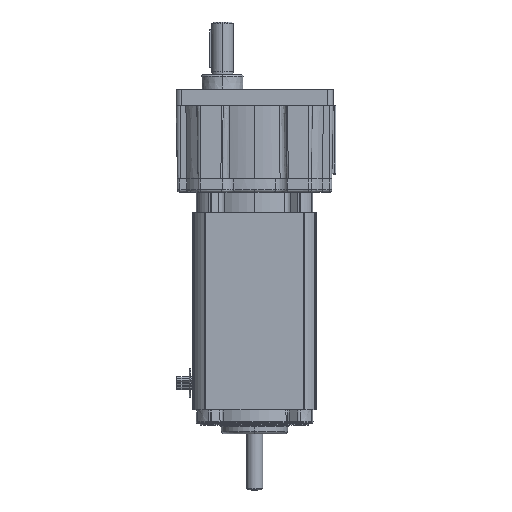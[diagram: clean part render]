
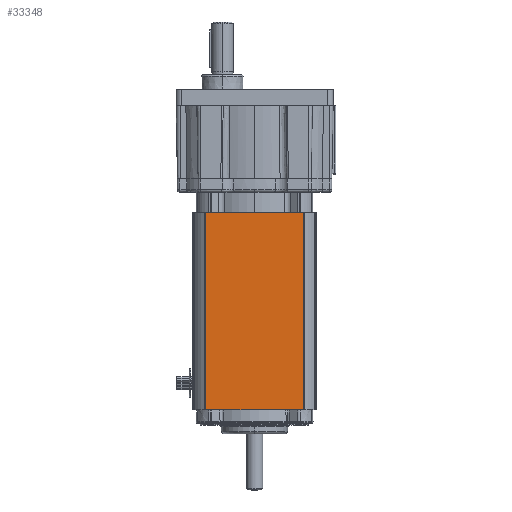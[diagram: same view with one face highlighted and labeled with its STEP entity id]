
A CAD part, left-side view. The second image highlights one B-rep face of the part: STEP entity #33348.
In plain terms, the highlighted planar face has unit normal (-1, 0, 0).
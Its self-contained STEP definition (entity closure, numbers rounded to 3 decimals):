
#1365 = DIRECTION ( 'NONE',  ( 0., 0., -1. ) ) ;
#1570 = VERTEX_POINT ( 'NONE', #10155 ) ;
#4729 = LINE ( 'NONE', #35699, #28837 ) ;
#4986 = CARTESIAN_POINT ( 'NONE',  ( -36.632, 28.835, -191.11 ) ) ;
#7263 = EDGE_CURVE ( 'NONE', #11758, #48712, #36537, .T. ) ;
#7618 = CARTESIAN_POINT ( 'NONE',  ( -36.622, -28.848, -72.847 ) ) ;
#8631 = DIRECTION ( 'NONE',  ( 0., 0., 1. ) ) ;
#10155 = CARTESIAN_POINT ( 'NONE',  ( -36.632, 28.835, -189.255 ) ) ;
#10381 = EDGE_CURVE ( 'NONE', #11758, #1570, #20993, .T. ) ;
#10576 = LINE ( 'NONE', #31484, #39392 ) ;
#11758 = VERTEX_POINT ( 'NONE', #24457 ) ;
#17979 = CARTESIAN_POINT ( 'NONE',  ( -36.622, -29.356, -72.847 ) ) ;
#17987 = ORIENTED_EDGE ( 'NONE', *, *, #7263, .F. ) ;
#18380 = EDGE_CURVE ( 'NONE', #37730, #48712, #10576, .T. ) ;
#20677 = EDGE_CURVE ( 'NONE', #37730, #1570, #4729, .T. ) ;
#20993 = LINE ( 'NONE', #4986, #23339 ) ;
#21200 = PLANE ( 'NONE',  #33473 ) ;
#23339 = VECTOR ( 'NONE', #1365, 1000. ) ;
#24457 = CARTESIAN_POINT ( 'NONE',  ( -36.632, 28.835, -72.847 ) ) ;
#24712 = DIRECTION ( 'NONE',  ( 0., 1., 0. ) ) ;
#25749 = DIRECTION ( 'NONE',  ( -1., 0., 0. ) ) ;
#27533 = ORIENTED_EDGE ( 'NONE', *, *, #18380, .T. ) ;
#27791 = EDGE_LOOP ( 'NONE', ( #42893, #33246, #27533, #17987 ) ) ;
#28837 = VECTOR ( 'NONE', #24712, 1000. ) ;
#29880 = DIRECTION ( 'NONE',  ( 0., 0., 1. ) ) ;
#31484 = CARTESIAN_POINT ( 'NONE',  ( -36.622, -28.848, -191.11 ) ) ;
#32882 = CARTESIAN_POINT ( 'NONE',  ( -36.622, -29.356, -191.11 ) ) ;
#33246 = ORIENTED_EDGE ( 'NONE', *, *, #20677, .F. ) ;
#33348 = ADVANCED_FACE ( 'NONE', ( #38530 ), #21200, .T. ) ;
#33446 = CARTESIAN_POINT ( 'NONE',  ( -36.622, -28.848, -189.255 ) ) ;
#33473 = AXIS2_PLACEMENT_3D ( 'NONE', #32882, #25749, #29880 ) ;
#35699 = CARTESIAN_POINT ( 'NONE',  ( -36.622, -28.848, -189.255 ) ) ;
#36537 = LINE ( 'NONE', #17979, #43004 ) ;
#37730 = VERTEX_POINT ( 'NONE', #33446 ) ;
#38530 = FACE_OUTER_BOUND ( 'NONE', #27791, .T. ) ;
#39392 = VECTOR ( 'NONE', #8631, 1000. ) ;
#42893 = ORIENTED_EDGE ( 'NONE', *, *, #10381, .T. ) ;
#43004 = VECTOR ( 'NONE', #44310, 1000. ) ;
#44310 = DIRECTION ( 'NONE',  ( 0., -1., 0. ) ) ;
#48712 = VERTEX_POINT ( 'NONE', #7618 ) ;
